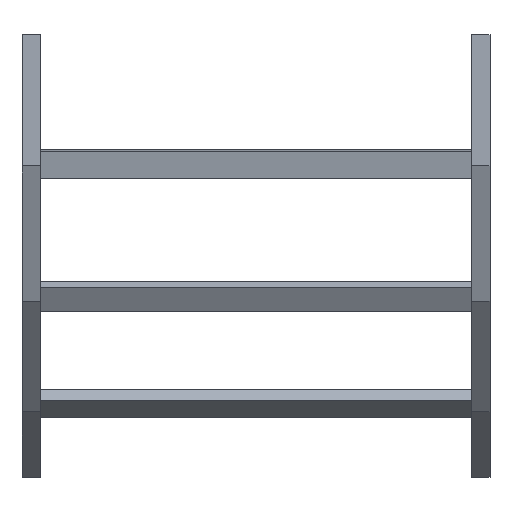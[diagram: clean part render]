
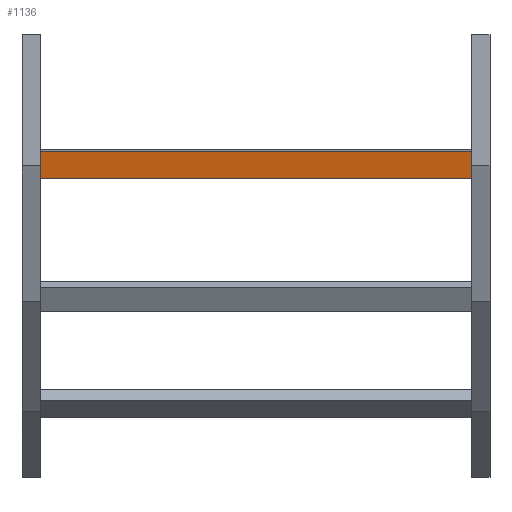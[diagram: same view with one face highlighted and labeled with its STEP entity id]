
A CAD part, front view. The second image highlights one B-rep face of the part: STEP entity #1136.
In plain terms, the highlighted planar face has unit normal (0, -0.985, -0.174) as drawn and (0, -1, 0) by its records, which use the part's own axes.
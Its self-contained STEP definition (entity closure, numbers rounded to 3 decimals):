
#32 = VERTEX_POINT ( 'NONE', #785 ) ;
#145 = EDGE_CURVE ( 'NONE', #700, #32, #1326, .T. ) ;
#161 = EDGE_CURVE ( 'NONE', #278, #227, #876, .T. ) ;
#206 = ORIENTED_EDGE ( 'NONE', *, *, #319, .F. ) ;
#222 = VECTOR ( 'NONE', #806, 1000. ) ;
#227 = VERTEX_POINT ( 'NONE', #664 ) ;
#257 = DIRECTION ( 'NONE',  ( -1., 0., 0. ) ) ;
#278 = VERTEX_POINT ( 'NONE', #816 ) ;
#318 = FACE_OUTER_BOUND ( 'NONE', #422, .T. ) ;
#319 = EDGE_CURVE ( 'NONE', #32, #227, #1174, .T. ) ;
#422 = EDGE_LOOP ( 'NONE', ( #1429, #206, #992, #868 ) ) ;
#447 = VECTOR ( 'NONE', #257, 1000. ) ;
#490 = DIRECTION ( 'NONE',  ( -1., 0., 0. ) ) ;
#587 = CARTESIAN_POINT ( 'NONE',  ( 348., 0., 20.25 ) ) ;
#602 = VECTOR ( 'NONE', #1406, 1000. ) ;
#624 = CARTESIAN_POINT ( 'NONE',  ( -348., 0., 20.25 ) ) ;
#632 = AXIS2_PLACEMENT_3D ( 'NONE', #952, #1626, #1235 ) ;
#664 = CARTESIAN_POINT ( 'NONE',  ( -348., 0., -20.25 ) ) ;
#700 = VERTEX_POINT ( 'NONE', #587 ) ;
#705 = PLANE ( 'NONE',  #632 ) ;
#785 = CARTESIAN_POINT ( 'NONE',  ( 348., 0., -20.25 ) ) ;
#806 = DIRECTION ( 'NONE',  ( 0., 0., -1. ) ) ;
#816 = CARTESIAN_POINT ( 'NONE',  ( -348., 0., 20.25 ) ) ;
#868 = ORIENTED_EDGE ( 'NONE', *, *, #1051, .T. ) ;
#876 = LINE ( 'NONE', #624, #602 ) ;
#952 = CARTESIAN_POINT ( 'NONE',  ( 348., 0., 20.25 ) ) ;
#992 = ORIENTED_EDGE ( 'NONE', *, *, #145, .F. ) ;
#1040 = LINE ( 'NONE', #1443, #447 ) ;
#1051 = EDGE_CURVE ( 'NONE', #700, #278, #1040, .T. ) ;
#1063 = CARTESIAN_POINT ( 'NONE',  ( 348., 0., 20.25 ) ) ;
#1136 = ADVANCED_FACE ( 'NONE', ( #318 ), #705, .F. ) ;
#1174 = LINE ( 'NONE', #1529, #1534 ) ;
#1235 = DIRECTION ( 'NONE',  ( 0., 0., 1. ) ) ;
#1326 = LINE ( 'NONE', #1063, #222 ) ;
#1406 = DIRECTION ( 'NONE',  ( 0., 0., -1. ) ) ;
#1429 = ORIENTED_EDGE ( 'NONE', *, *, #161, .T. ) ;
#1443 = CARTESIAN_POINT ( 'NONE',  ( 348., 0., 20.25 ) ) ;
#1529 = CARTESIAN_POINT ( 'NONE',  ( 348., 0., -20.25 ) ) ;
#1534 = VECTOR ( 'NONE', #490, 1000. ) ;
#1626 = DIRECTION ( 'NONE',  ( 0., 1., 0. ) ) ;
